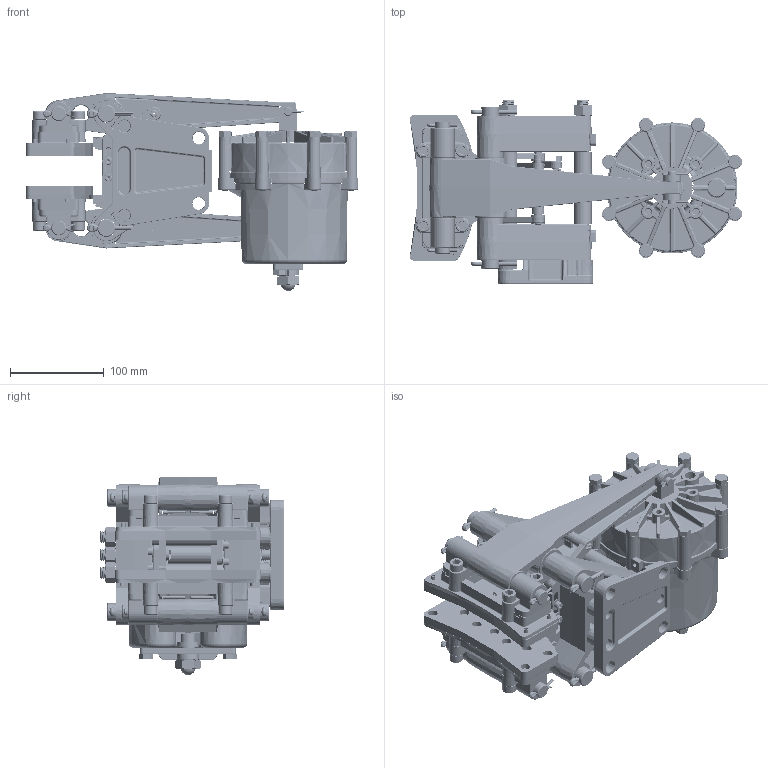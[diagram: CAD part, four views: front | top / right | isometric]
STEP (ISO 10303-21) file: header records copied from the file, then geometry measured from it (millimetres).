
FILE_DESCRIPTION (( 'STEP AP214' ), '1' );
FILE_NAME ('5020-SA-RH.STEP', '2016-06-02T17:32:48', ( 'User' ), ( 'Microsoft' ), 'SwSTEP 2.0', 'SolidWorks 2015', '' );
FILE_SCHEMA (( 'AUTOMOTIVE_DESIGN' ));
Length unit declared in the file: inch
Products named in the file (1): 5020-SA-RH
Bounding box: 354 x 195.9 x 211.12 mm (x, y, z)
Surface area: 581415.2 mm2 (no closed solid volume)
Topology: 0 solids, 153 shells, 3417 faces, 10530 edges, 6875 vertices
Faces by surface type: cylinder 935, plane 882, cone 602, torus 489, bspline 479, sphere 30
Entity records: 190397 total; most frequent: CARTESIAN_POINT 59227, DIRECTION 17906, ORIENTED_EDGE 17017, EDGE_CURVE 10454, AXIS2_PLACEMENT_3D 7194, VERTEX_POINT 6875, CIRCLE 4255, EDGE_LOOP 3732
